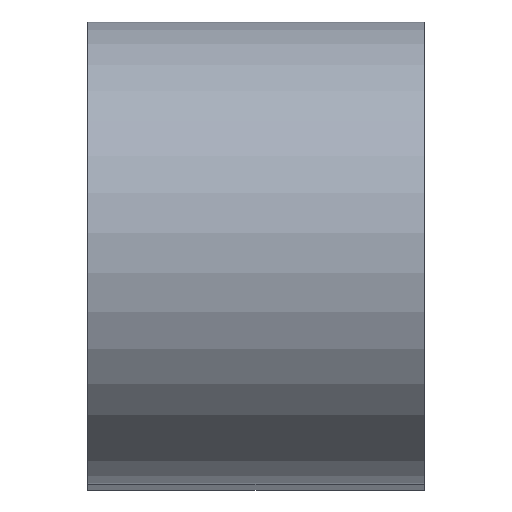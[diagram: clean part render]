
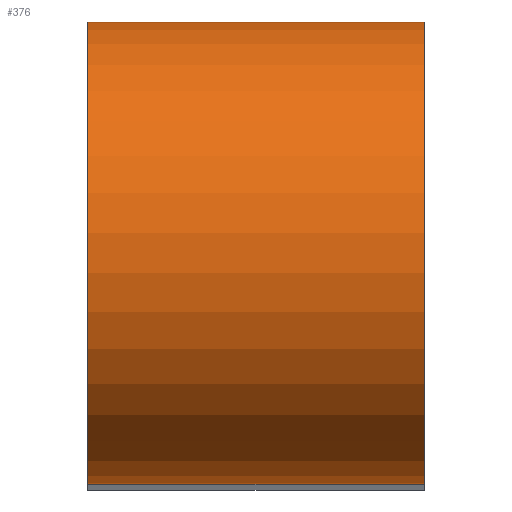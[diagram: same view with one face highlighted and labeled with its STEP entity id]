
A CAD part, top view. The second image highlights one B-rep face of the part: STEP entity #376.
In plain terms, the highlighted cylindrical face has radius 5.5 mm (diameter 11 mm), a partial arc.
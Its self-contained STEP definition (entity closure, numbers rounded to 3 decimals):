
#33 = PLANE('',#34);
#34 = AXIS2_PLACEMENT_3D('',#35,#36,#37);
#35 = CARTESIAN_POINT('',(-4.,4.,-80.));
#36 = DIRECTION('',(1.,-0.,-0.));
#37 = DIRECTION('',(0.,0.,-1.));
#58 = VERTEX_POINT('',#59);
#59 = CARTESIAN_POINT('',(-4.,-4.,-3.775));
#73 = PLANE('',#74);
#74 = AXIS2_PLACEMENT_3D('',#75,#76,#77);
#75 = CARTESIAN_POINT('',(-4.,-4.,-80.));
#76 = DIRECTION('',(0.,-1.,0.));
#77 = DIRECTION('',(0.,0.,-1.));
#85 = EDGE_CURVE('',#86,#58,#88,.T.);
#86 = VERTEX_POINT('',#87);
#87 = CARTESIAN_POINT('',(-4.,4.,-3.775));
#88 = SURFACE_CURVE('',#89,(#94,#101),.PCURVE_S1.);
#89 = CIRCLE('',#90,5.5);
#90 = AXIS2_PLACEMENT_3D('',#91,#92,#93);
#91 = CARTESIAN_POINT('',(-4.,0.,0.));
#92 = DIRECTION('',(1.,0.,0.));
#93 = DIRECTION('',(0.,0.727,-0.686));
#94 = PCURVE('',#33,#95);
#95 = DEFINITIONAL_REPRESENTATION('',(#96),#100);
#96 = CIRCLE('',#97,5.5);
#97 = AXIS2_PLACEMENT_2D('',#98,#99);
#98 = CARTESIAN_POINT('',(-80.,-4.));
#99 = DIRECTION('',(0.686,0.727));
#100 = ( GEOMETRIC_REPRESENTATION_CONTEXT(2) 
PARAMETRIC_REPRESENTATION_CONTEXT() REPRESENTATION_CONTEXT('2D SPACE',''
  ) );
#101 = PCURVE('',#102,#107);
#102 = CYLINDRICAL_SURFACE('',#103,5.5);
#103 = AXIS2_PLACEMENT_3D('',#104,#105,#106);
#104 = CARTESIAN_POINT('',(-4.,0.,0.));
#105 = DIRECTION('',(-1.,0.,-0.));
#106 = DIRECTION('',(-0.,1.,-0.));
#107 = DEFINITIONAL_REPRESENTATION('',(#108),#112);
#108 = LINE('',#109,#110);
#109 = CARTESIAN_POINT('',(7.04,0.));
#110 = VECTOR('',#111,1.);
#111 = DIRECTION('',(-1.,-0.));
#112 = ( GEOMETRIC_REPRESENTATION_CONTEXT(2) 
PARAMETRIC_REPRESENTATION_CONTEXT() REPRESENTATION_CONTEXT('2D SPACE',''
  ) );
#128 = PLANE('',#129);
#129 = AXIS2_PLACEMENT_3D('',#130,#131,#132);
#130 = CARTESIAN_POINT('',(-4.,4.,-80.));
#131 = DIRECTION('',(0.,-1.,0.));
#132 = DIRECTION('',(0.,0.,-1.));
#224 = PLANE('',#225);
#225 = AXIS2_PLACEMENT_3D('',#226,#227,#228);
#226 = CARTESIAN_POINT('',(4.,0.,-80.));
#227 = DIRECTION('',(1.,-0.,-0.));
#228 = DIRECTION('',(0.,0.,-1.));
#283 = VERTEX_POINT('',#284);
#284 = CARTESIAN_POINT('',(4.,-4.,-3.775));
#307 = EDGE_CURVE('',#283,#58,#308,.T.);
#308 = SURFACE_CURVE('',#309,(#313,#320),.PCURVE_S1.);
#309 = LINE('',#310,#311);
#310 = CARTESIAN_POINT('',(-4.,-4.,-3.775));
#311 = VECTOR('',#312,1.);
#312 = DIRECTION('',(-1.,0.,-0.));
#313 = PCURVE('',#73,#314);
#314 = DEFINITIONAL_REPRESENTATION('',(#315),#319);
#315 = LINE('',#316,#317);
#316 = CARTESIAN_POINT('',(-76.225,0.));
#317 = VECTOR('',#318,1.);
#318 = DIRECTION('',(-0.,-1.));
#319 = ( GEOMETRIC_REPRESENTATION_CONTEXT(2) 
PARAMETRIC_REPRESENTATION_CONTEXT() REPRESENTATION_CONTEXT('2D SPACE',''
  ) );
#320 = PCURVE('',#102,#321);
#321 = DEFINITIONAL_REPRESENTATION('',(#322),#326);
#322 = LINE('',#323,#324);
#323 = CARTESIAN_POINT('',(2.385,0.));
#324 = VECTOR('',#325,1.);
#325 = DIRECTION('',(0.,1.));
#326 = ( GEOMETRIC_REPRESENTATION_CONTEXT(2) 
PARAMETRIC_REPRESENTATION_CONTEXT() REPRESENTATION_CONTEXT('2D SPACE',''
  ) );
#332 = VERTEX_POINT('',#333);
#333 = CARTESIAN_POINT('',(4.,4.,-3.775));
#356 = EDGE_CURVE('',#332,#86,#357,.T.);
#357 = SURFACE_CURVE('',#358,(#362,#369),.PCURVE_S1.);
#358 = LINE('',#359,#360);
#359 = CARTESIAN_POINT('',(-4.,4.,-3.775));
#360 = VECTOR('',#361,1.);
#361 = DIRECTION('',(-1.,0.,-0.));
#362 = PCURVE('',#128,#363);
#363 = DEFINITIONAL_REPRESENTATION('',(#364),#368);
#364 = LINE('',#365,#366);
#365 = CARTESIAN_POINT('',(-76.225,0.));
#366 = VECTOR('',#367,1.);
#367 = DIRECTION('',(-0.,-1.));
#368 = ( GEOMETRIC_REPRESENTATION_CONTEXT(2) 
PARAMETRIC_REPRESENTATION_CONTEXT() REPRESENTATION_CONTEXT('2D SPACE',''
  ) );
#369 = PCURVE('',#102,#370);
#370 = DEFINITIONAL_REPRESENTATION('',(#371),#375);
#371 = LINE('',#372,#373);
#372 = CARTESIAN_POINT('',(7.04,0.));
#373 = VECTOR('',#374,1.);
#374 = DIRECTION('',(0.,1.));
#375 = ( GEOMETRIC_REPRESENTATION_CONTEXT(2) 
PARAMETRIC_REPRESENTATION_CONTEXT() REPRESENTATION_CONTEXT('2D SPACE',''
  ) );
#376 = ADVANCED_FACE('',(#377),#102,.T.);
#377 = FACE_BOUND('',#378,.T.);
#378 = EDGE_LOOP('',(#379,#380,#381,#407));
#379 = ORIENTED_EDGE('',*,*,#85,.T.);
#380 = ORIENTED_EDGE('',*,*,#307,.F.);
#381 = ORIENTED_EDGE('',*,*,#382,.T.);
#382 = EDGE_CURVE('',#283,#332,#383,.T.);
#383 = SURFACE_CURVE('',#384,(#389,#396),.PCURVE_S1.);
#384 = CIRCLE('',#385,5.5);
#385 = AXIS2_PLACEMENT_3D('',#386,#387,#388);
#386 = CARTESIAN_POINT('',(4.,0.,0.));
#387 = DIRECTION('',(-1.,0.,0.));
#388 = DIRECTION('',(-0.,-0.727,-0.686));
#389 = PCURVE('',#102,#390);
#390 = DEFINITIONAL_REPRESENTATION('',(#391),#395);
#391 = LINE('',#392,#393);
#392 = CARTESIAN_POINT('',(2.385,-8.));
#393 = VECTOR('',#394,1.);
#394 = DIRECTION('',(1.,0.));
#395 = ( GEOMETRIC_REPRESENTATION_CONTEXT(2) 
PARAMETRIC_REPRESENTATION_CONTEXT() REPRESENTATION_CONTEXT('2D SPACE',''
  ) );
#396 = PCURVE('',#224,#397);
#397 = DEFINITIONAL_REPRESENTATION('',(#398),#406);
#398 = ( BOUNDED_CURVE() B_SPLINE_CURVE(2,(#399,#400,#401,#402,#403,#404
,#405),.UNSPECIFIED.,.T.,.F.) B_SPLINE_CURVE_WITH_KNOTS((1,2,2,2,2,1),(
    -2.094,0.,2.094,4.189,6.283,
8.378),.UNSPECIFIED.) CURVE() GEOMETRIC_REPRESENTATION_ITEM() 
RATIONAL_B_SPLINE_CURVE((1.,0.5,1.,0.5,1.,0.5,1.)) REPRESENTATION_ITEM(
  '') );
#399 = CARTESIAN_POINT('',(-76.225,-4.));
#400 = CARTESIAN_POINT('',(-83.153,-10.538));
#401 = CARTESIAN_POINT('',(-85.352,-1.269));
#402 = CARTESIAN_POINT('',(-87.55,8.));
#403 = CARTESIAN_POINT('',(-78.423,5.269));
#404 = CARTESIAN_POINT('',(-69.297,2.538));
#405 = CARTESIAN_POINT('',(-76.225,-4.));
#406 = ( GEOMETRIC_REPRESENTATION_CONTEXT(2) 
PARAMETRIC_REPRESENTATION_CONTEXT() REPRESENTATION_CONTEXT('2D SPACE',''
  ) );
#407 = ORIENTED_EDGE('',*,*,#356,.T.);
